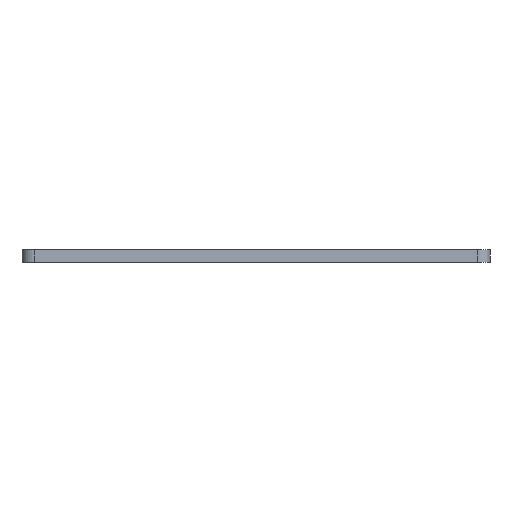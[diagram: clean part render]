
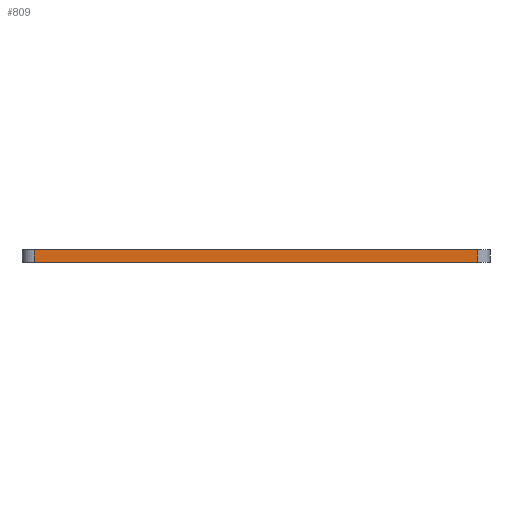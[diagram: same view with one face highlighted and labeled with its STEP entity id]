
A CAD part, front view. The second image highlights one B-rep face of the part: STEP entity #809.
In plain terms, the highlighted planar face has unit normal (0, -1, 0).
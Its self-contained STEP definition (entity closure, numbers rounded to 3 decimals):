
#5 = EDGE_CURVE ( 'NONE', #89, #731, #79, .T. ) ;
#12 = LINE ( 'NONE', #191, #574 ) ;
#21 = EDGE_CURVE ( 'NONE', #731, #435, #757, .T. ) ;
#70 = CARTESIAN_POINT ( 'NONE',  ( -49.574, -23.524, 0. ) ) ;
#79 = LINE ( 'NONE', #356, #713 ) ;
#89 = VERTEX_POINT ( 'NONE', #861 ) ;
#93 = VECTOR ( 'NONE', #526, 1000. ) ;
#136 = CARTESIAN_POINT ( 'NONE',  ( -49.574, -23.524, 3. ) ) ;
#146 = CARTESIAN_POINT ( 'NONE',  ( 61.426, -23.524, 3. ) ) ;
#191 = CARTESIAN_POINT ( 'NONE',  ( 61.426, -23.524, 3. ) ) ;
#194 = DIRECTION ( 'NONE',  ( 0., 1., 0. ) ) ;
#221 = EDGE_CURVE ( 'NONE', #89, #233, #524, .T. ) ;
#233 = VERTEX_POINT ( 'NONE', #146 ) ;
#235 = CARTESIAN_POINT ( 'NONE',  ( -49.574, -23.524, 3. ) ) ;
#302 = AXIS2_PLACEMENT_3D ( 'NONE', #136, #194, #842 ) ;
#321 = CARTESIAN_POINT ( 'NONE',  ( 61.426, -23.524, 0. ) ) ;
#356 = CARTESIAN_POINT ( 'NONE',  ( -46.574, -23.524, 3. ) ) ;
#396 = ORIENTED_EDGE ( 'NONE', *, *, #221, .F. ) ;
#435 = VERTEX_POINT ( 'NONE', #321 ) ;
#468 = CARTESIAN_POINT ( 'NONE',  ( -46.574, -23.524, 0. ) ) ;
#524 = LINE ( 'NONE', #235, #93 ) ;
#526 = DIRECTION ( 'NONE',  ( 1., 0., 0. ) ) ;
#574 = VECTOR ( 'NONE', #682, 1000. ) ;
#594 = ORIENTED_EDGE ( 'NONE', *, *, #691, .T. ) ;
#601 = PLANE ( 'NONE',  #302 ) ;
#619 = FACE_OUTER_BOUND ( 'NONE', #709, .T. ) ;
#682 = DIRECTION ( 'NONE',  ( 0., 0., 1. ) ) ;
#691 = EDGE_CURVE ( 'NONE', #435, #233, #12, .T. ) ;
#706 = DIRECTION ( 'NONE',  ( 0., 0., -1. ) ) ;
#709 = EDGE_LOOP ( 'NONE', ( #396, #903, #729, #594 ) ) ;
#713 = VECTOR ( 'NONE', #706, 1000. ) ;
#729 = ORIENTED_EDGE ( 'NONE', *, *, #21, .T. ) ;
#731 = VERTEX_POINT ( 'NONE', #468 ) ;
#757 = LINE ( 'NONE', #70, #790 ) ;
#782 = DIRECTION ( 'NONE',  ( 1., 0., 0. ) ) ;
#790 = VECTOR ( 'NONE', #782, 1000. ) ;
#809 = ADVANCED_FACE ( 'NONE', ( #619 ), #601, .F. ) ;
#842 = DIRECTION ( 'NONE',  ( 0., 0., 1. ) ) ;
#861 = CARTESIAN_POINT ( 'NONE',  ( -46.574, -23.524, 3. ) ) ;
#903 = ORIENTED_EDGE ( 'NONE', *, *, #5, .T. ) ;
